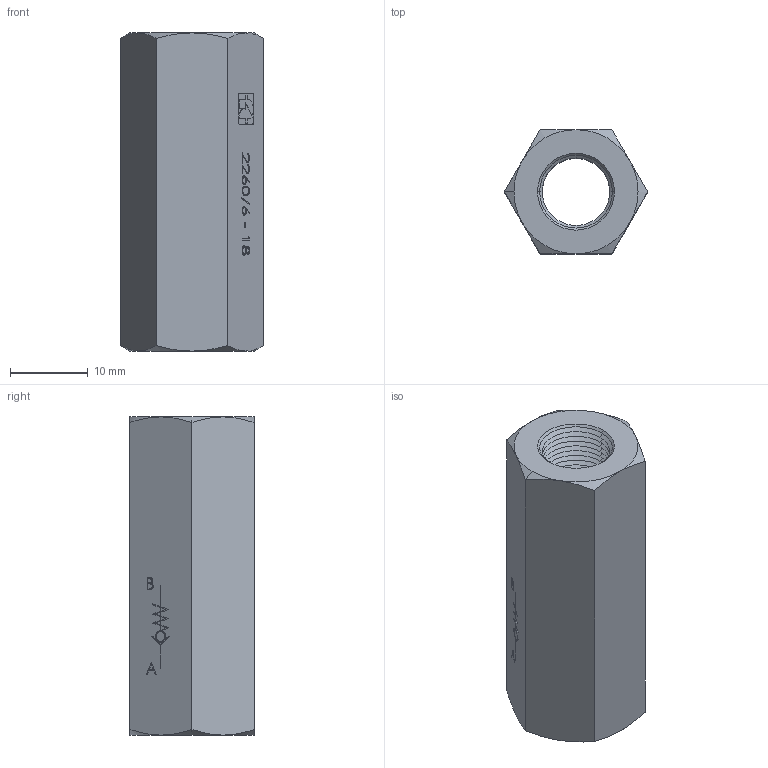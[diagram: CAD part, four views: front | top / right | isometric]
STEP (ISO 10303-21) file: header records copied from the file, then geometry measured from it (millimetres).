
FILE_DESCRIPTION (( 'STEP AP214' ), '1' );
FILE_NAME ('2260-6-18.STEP', '2015-04-08T19:07:48', ( '' ), ( '' ), 'SwSTEP 2.0', 'SolidWorks 2014', '' );
FILE_SCHEMA (( 'AUTOMOTIVE_DESIGN' ));
Length unit declared in the file: millimetre
Products named in the file (1): 2260-6-18
Bounding box: 18.48 x 16 x 41 mm (x, y, z)
Surface area: 3099.2 mm2 (no closed solid volume)
Topology: 0 solids, 12 shells, 304 faces, 805 edges, 520 vertices
Faces by surface type: plane 149, cone 78, bspline 65, cylinder 12
Entity records: 16531 total; most frequent: CARTESIAN_POINT 6079, ORIENTED_EDGE 1508, DIRECTION 1261, EDGE_CURVE 805, VECTOR 521, LINE 521, VERTEX_POINT 520, AXIS2_PLACEMENT_3D 370
